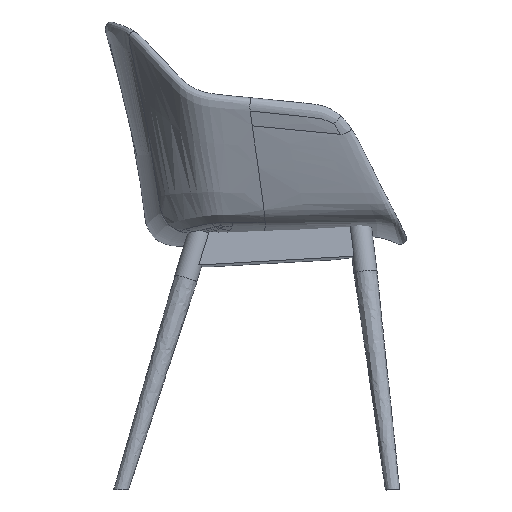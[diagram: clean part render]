
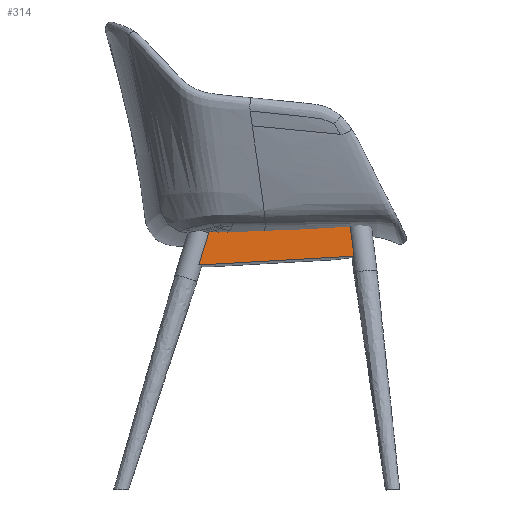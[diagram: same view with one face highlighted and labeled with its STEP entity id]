
A CAD part, left-side view. The second image highlights one B-rep face of the part: STEP entity #314.
In plain terms, the highlighted planar face has unit normal (-0.995, 0.054, 0.089).
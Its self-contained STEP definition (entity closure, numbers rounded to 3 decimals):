
#131=PLANE('',#2874);
#314=ADVANCED_FACE('',(#492),#131,.T.);
#492=FACE_OUTER_BOUND('',#670,.T.);
#670=EDGE_LOOP('',(#1443,#1444,#1445,#1446));
#1443=ORIENTED_EDGE('',*,*,#1921,.T.);
#1444=ORIENTED_EDGE('',*,*,#1923,.F.);
#1445=ORIENTED_EDGE('',*,*,#1930,.F.);
#1446=ORIENTED_EDGE('',*,*,#1925,.F.);
#1921=EDGE_CURVE('',#2610,#2607,#2310,.T.);
#1923=EDGE_CURVE('',#2608,#2607,#2312,.T.);
#1925=EDGE_CURVE('',#2610,#2609,#2314,.T.);
#1930=EDGE_CURVE('',#2609,#2608,#2319,.T.);
#2310=B_SPLINE_CURVE_WITH_KNOTS('',1,(#22997,#22998),.UNSPECIFIED.,.F.,
 .F.,(2,2),(-63.281,0.),.UNSPECIFIED.);
#2312=B_SPLINE_CURVE_WITH_KNOTS('',1,(#23001,#23002),.UNSPECIFIED.,.F.,
 .F.,(2,2),(-235.741,-26.267),.UNSPECIFIED.);
#2314=B_SPLINE_CURVE_WITH_KNOTS('',6,(#23052,#23053,#23054,#23055,#23056,
#23057,#23058,#23059,#23060,#23061,#23062,#23063,#23064,#23065,#23066,#23067,
#23068,#23069,#23070,#23071,#23072,#23073,#23074,#23075,#23076,#23077,#23078,
#23079,#23080,#23081,#23082,#23083,#23084,#23085,#23086,#23087,#23088,#23089,
#23090,#23091,#23092,#23093,#23094,#23095,#23096,#23097,#23098,#23099,#23100,
#23101,#23102,#23103,#23104,#23105,#23106,#23107,#23108,#23109,#23110,#23111,
#23112),.UNSPECIFIED.,.F.,.F.,(7,6,6,6,6,6,6,6,6,6,7),(-239.341,
-216.906,-193.07,-169.235,-145.399,
-121.563,-97.727,-73.891,-50.055,
-26.219,-18.441),.UNSPECIFIED.);
#2319=B_SPLINE_CURVE_WITH_KNOTS('',1,(#23129,#23130),.UNSPECIFIED.,.F.,
 .F.,(2,2),(-1.,0.),.UNSPECIFIED.);
#2607=VERTEX_POINT('',#22987);
#2608=VERTEX_POINT('',#22988);
#2609=VERTEX_POINT('',#22989);
#2610=VERTEX_POINT('',#22990);
#2874=AXIS2_PLACEMENT_3D('',#22464,#2917,$);
#2917=DIRECTION('',(-0.995,0.054,0.089));
#22464=CARTESIAN_POINT('',(-165.027,109.302,558.433));
#22987=CARTESIAN_POINT('',(-179.803,110.049,392.992));
#22988=CARTESIAN_POINT('',(-192.98,-158.609,408.269));
#22989=CARTESIAN_POINT('',(-187.814,-151.93,461.91));
#22990=CARTESIAN_POINT('',(-175.398,91.566,453.352));
#22997=CARTESIAN_POINT('',(-175.398,91.566,453.352));
#22998=CARTESIAN_POINT('',(-179.803,110.049,392.992));
#23001=CARTESIAN_POINT('',(-192.98,-158.609,408.269));
#23002=CARTESIAN_POINT('',(-179.803,110.049,392.992));
#23052=CARTESIAN_POINT('',(-175.398,91.566,453.352));
#23053=CARTESIAN_POINT('',(-175.621,87.442,453.349));
#23054=CARTESIAN_POINT('',(-175.845,83.317,453.35));
#23055=CARTESIAN_POINT('',(-176.068,79.192,453.355));
#23056=CARTESIAN_POINT('',(-176.29,75.068,453.365));
#23057=CARTESIAN_POINT('',(-176.512,70.943,453.379));
#23058=CARTESIAN_POINT('',(-176.734,66.819,453.398));
#23059=CARTESIAN_POINT('',(-176.969,62.436,453.419));
#23060=CARTESIAN_POINT('',(-177.204,58.054,453.444));
#23061=CARTESIAN_POINT('',(-177.439,53.672,453.474));
#23062=CARTESIAN_POINT('',(-177.673,49.29,453.511));
#23063=CARTESIAN_POINT('',(-177.906,44.908,453.553));
#23064=CARTESIAN_POINT('',(-178.139,40.526,453.601));
#23065=CARTESIAN_POINT('',(-178.372,36.144,453.649));
#23066=CARTESIAN_POINT('',(-178.604,31.761,453.704));
#23067=CARTESIAN_POINT('',(-178.836,27.379,453.765));
#23068=CARTESIAN_POINT('',(-179.067,22.997,453.833));
#23069=CARTESIAN_POINT('',(-179.298,18.616,453.908));
#23070=CARTESIAN_POINT('',(-179.527,14.234,453.99));
#23071=CARTESIAN_POINT('',(-179.757,9.852,454.072));
#23072=CARTESIAN_POINT('',(-179.987,5.47,454.162));
#23073=CARTESIAN_POINT('',(-180.215,1.089,454.259));
#23074=CARTESIAN_POINT('',(-180.443,-3.293,454.364));
#23075=CARTESIAN_POINT('',(-180.67,-7.674,454.478));
#23076=CARTESIAN_POINT('',(-180.896,-12.055,454.6));
#23077=CARTESIAN_POINT('',(-181.122,-16.436,454.722));
#23078=CARTESIAN_POINT('',(-181.348,-20.817,454.852));
#23079=CARTESIAN_POINT('',(-181.573,-25.197,454.992));
#23080=CARTESIAN_POINT('',(-181.796,-29.577,455.139));
#23081=CARTESIAN_POINT('',(-182.02,-33.957,455.296));
#23082=CARTESIAN_POINT('',(-182.242,-38.337,455.461));
#23083=CARTESIAN_POINT('',(-182.464,-42.717,455.627));
#23084=CARTESIAN_POINT('',(-182.686,-47.097,455.801));
#23085=CARTESIAN_POINT('',(-182.906,-51.476,455.985));
#23086=CARTESIAN_POINT('',(-183.126,-55.855,456.177));
#23087=CARTESIAN_POINT('',(-183.345,-60.233,456.378));
#23088=CARTESIAN_POINT('',(-183.563,-64.611,456.589));
#23089=CARTESIAN_POINT('',(-183.782,-68.989,456.8));
#23090=CARTESIAN_POINT('',(-183.999,-73.367,457.019));
#23091=CARTESIAN_POINT('',(-184.215,-77.744,457.247));
#23092=CARTESIAN_POINT('',(-184.431,-82.121,457.484));
#23093=CARTESIAN_POINT('',(-184.646,-86.497,457.731));
#23094=CARTESIAN_POINT('',(-184.86,-90.873,457.987));
#23095=CARTESIAN_POINT('',(-185.074,-95.249,458.243));
#23096=CARTESIAN_POINT('',(-185.287,-99.624,458.509));
#23097=CARTESIAN_POINT('',(-185.499,-103.999,458.786));
#23098=CARTESIAN_POINT('',(-185.71,-108.373,459.071));
#23099=CARTESIAN_POINT('',(-185.921,-112.747,459.364));
#23100=CARTESIAN_POINT('',(-186.131,-117.12,459.663));
#23101=CARTESIAN_POINT('',(-186.341,-121.493,459.963));
#23102=CARTESIAN_POINT('',(-186.55,-125.866,460.269));
#23103=CARTESIAN_POINT('',(-186.759,-130.239,460.576));
#23104=CARTESIAN_POINT('',(-186.969,-134.612,460.875));
#23105=CARTESIAN_POINT('',(-187.181,-138.986,461.161));
#23106=CARTESIAN_POINT('',(-187.394,-143.362,461.426));
#23107=CARTESIAN_POINT('',(-187.463,-144.789,461.512));
#23108=CARTESIAN_POINT('',(-187.533,-146.217,461.596));
#23109=CARTESIAN_POINT('',(-187.603,-147.645,461.678));
#23110=CARTESIAN_POINT('',(-187.673,-149.073,461.758));
#23111=CARTESIAN_POINT('',(-187.744,-150.502,461.835));
#23112=CARTESIAN_POINT('',(-187.814,-151.93,461.91));
#23129=CARTESIAN_POINT('',(-187.814,-151.93,461.91));
#23130=CARTESIAN_POINT('',(-192.98,-158.609,408.269));
